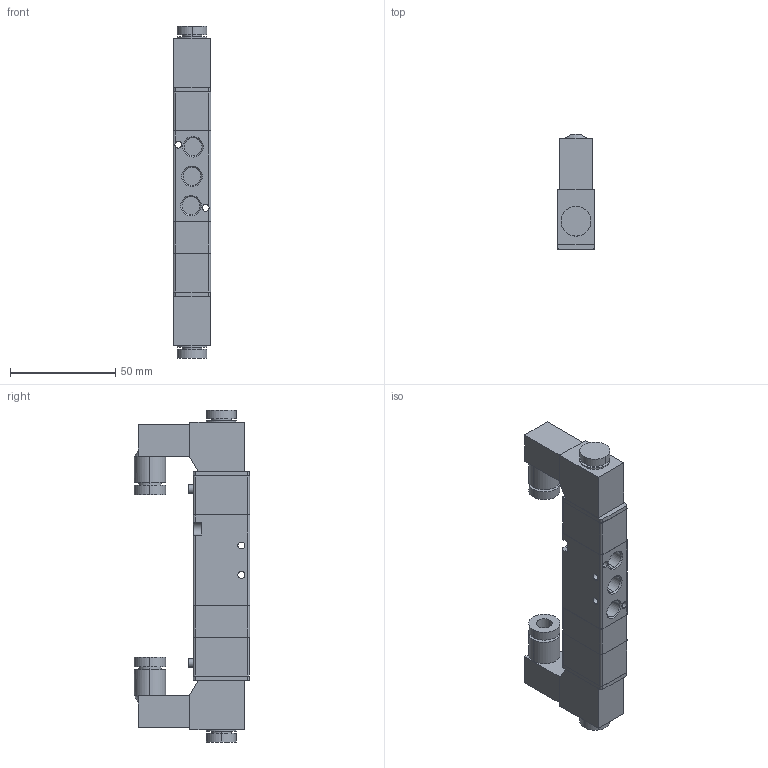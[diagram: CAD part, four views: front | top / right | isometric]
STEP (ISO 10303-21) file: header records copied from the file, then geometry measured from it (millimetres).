
FILE_DESCRIPTION (( 'STEP AP203' ), '1' );
FILE_NAME ('VB5-F01.STEP', '2020-04-15T16:59:30', ( '' ), ( '' ), 'SwSTEP 2.0', 'SolidWorks 2019', '' );
FILE_SCHEMA (( 'CONFIG_CONTROL_DESIGN' ));
Length unit declared in the file: millimetre
Products named in the file (1): VB5-F01
Bounding box: 18 x 55 x 158 mm (x, y, z)
Volume: 82380.5 mm3; surface area: 22728.2 mm2
Topology: 1 solids, 1 shells, 170 faces, 412 edges, 270 vertices
Faces by surface type: plane 80, cylinder 78, cone 12
Entity records: 5266 total; most frequent: CARTESIAN_POINT 1018, DIRECTION 922, ORIENTED_EDGE 824, EDGE_CURVE 412, AXIS2_PLACEMENT_3D 343, VERTEX_POINT 270, LINE 236, VECTOR 236
